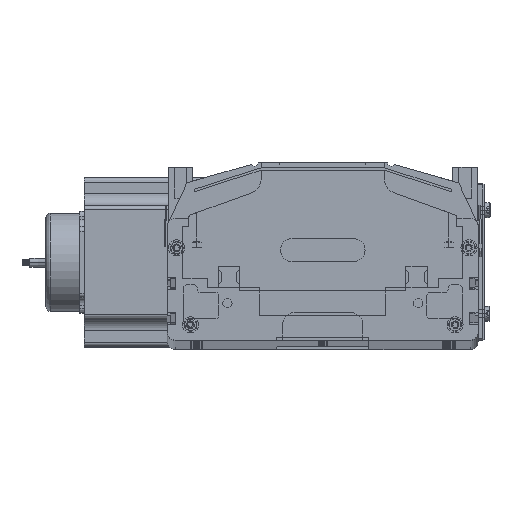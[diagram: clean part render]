
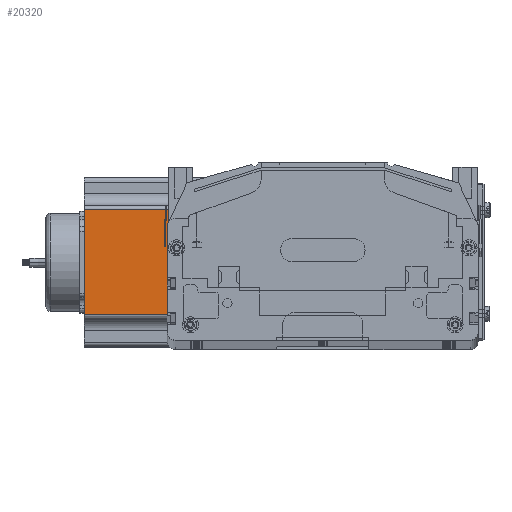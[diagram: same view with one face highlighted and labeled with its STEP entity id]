
A CAD part, top view. The second image highlights one B-rep face of the part: STEP entity #20320.
In plain terms, the highlighted planar face has unit normal (0, 0, 1) as drawn and (0, -1, 0) by its records, which use the part's own axes.
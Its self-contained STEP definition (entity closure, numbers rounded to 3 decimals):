
#20320 = ADVANCED_FACE ( 'NONE', ( #82263 ), #82494, .F. ) ;
#20321 = VERTEX_POINT ( 'NONE', #82496 ) ;
#20322 = ORIENTED_EDGE ( 'NONE', *, *, #20324, .T. ) ;
#20323 = ORIENTED_EDGE ( 'NONE', *, *, #20467, .T. ) ;
#20324 = EDGE_CURVE ( 'NONE', #20321, #20424, #82792, .T. ) ;
#20327 = ORIENTED_EDGE ( 'NONE', *, *, #20381, .F. ) ;
#20381 = EDGE_CURVE ( 'NONE', #20382, #20424, #82772, .T. ) ;
#20382 = VERTEX_POINT ( 'NONE', #82768 ) ;
#20389 = ORIENTED_EDGE ( 'NONE', *, *, #20391, .T. ) ;
#20391 = EDGE_CURVE ( 'NONE', #20382, #20465, #82774, .T. ) ;
#20424 = VERTEX_POINT ( 'NONE', #82448 ) ;
#20435 = EDGE_LOOP ( 'NONE', ( #20323, #20322, #20327, #20389 ) ) ;
#20465 = VERTEX_POINT ( 'NONE', #82900 ) ;
#20467 = EDGE_CURVE ( 'NONE', #20465, #20321, #83101, .T. ) ;
#82263 = FACE_OUTER_BOUND ( 'NONE', #20435, .T. ) ;
#82313 = VECTOR ( 'NONE', #82344, 1000. ) ;
#82339 = DIRECTION ( 'NONE',  ( 0., 0., 1. ) ) ;
#82344 = DIRECTION ( 'NONE',  ( 0., 0., -1. ) ) ;
#82345 = CARTESIAN_POINT ( 'NONE',  ( 21.048, 0., 160.5 ) ) ;
#82448 = CARTESIAN_POINT ( 'NONE',  ( 88.952, 0., 160.5 ) ) ;
#82483 = AXIS2_PLACEMENT_3D ( 'NONE', #82502, #82797, #82795 ) ;
#82494 = PLANE ( 'NONE',  #82483 ) ;
#82496 = CARTESIAN_POINT ( 'NONE',  ( 88.952, 0., 0. ) ) ;
#82502 = CARTESIAN_POINT ( 'NONE',  ( 0., 0., 160.5 ) ) ;
#82738 = DIRECTION ( 'NONE',  ( 1., 0., 0. ) ) ;
#82741 = VECTOR ( 'NONE', #82738, 1000. ) ;
#82744 = CARTESIAN_POINT ( 'NONE',  ( 0., 0., 160.5 ) ) ;
#82768 = CARTESIAN_POINT ( 'NONE',  ( 21.048, 0., 160.5 ) ) ;
#82772 = LINE ( 'NONE', #82744, #82741 ) ;
#82774 = LINE ( 'NONE', #82345, #82313 ) ;
#82788 = VECTOR ( 'NONE', #82339, 1000. ) ;
#82790 = CARTESIAN_POINT ( 'NONE',  ( 88.952, 0., 160.5 ) ) ;
#82792 = LINE ( 'NONE', #82790, #82788 ) ;
#82795 = DIRECTION ( 'NONE',  ( 0., 0., 1. ) ) ;
#82797 = DIRECTION ( 'NONE',  ( 0., 1., 0. ) ) ;
#82900 = CARTESIAN_POINT ( 'NONE',  ( 21.048, 0., 0. ) ) ;
#82954 = DIRECTION ( 'NONE',  ( 1., 0., 0. ) ) ;
#82956 = VECTOR ( 'NONE', #82954, 1000. ) ;
#83100 = CARTESIAN_POINT ( 'NONE',  ( 0., 0., 0. ) ) ;
#83101 = LINE ( 'NONE', #83100, #82956 ) ;
